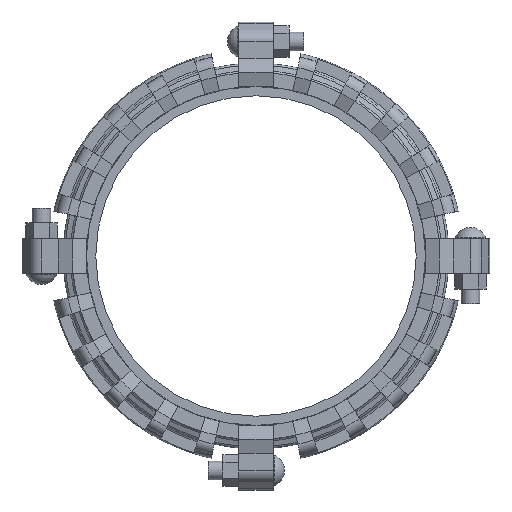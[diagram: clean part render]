
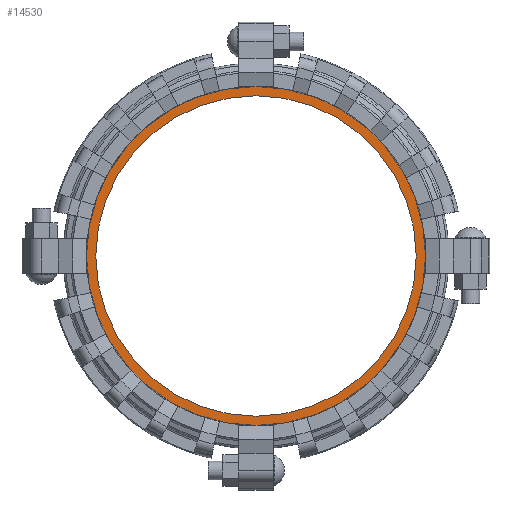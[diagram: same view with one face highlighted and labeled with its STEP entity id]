
A CAD part, top view. The second image highlights one B-rep face of the part: STEP entity #14530.
In plain terms, the highlighted planar face has unit normal (0, 0, 1).
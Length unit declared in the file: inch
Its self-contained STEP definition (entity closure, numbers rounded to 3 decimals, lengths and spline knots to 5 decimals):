
#640=FACE_BOUND('',#1459,.T.);
#670=FACE_OUTER_BOUND('',#1458,.T.);
#1458=EDGE_LOOP('',(#9069,#9070));
#1459=EDGE_LOOP('',(#9071));
#4042=CIRCLE('',#15348,9.825);
#4045=CIRCLE('',#15353,10.825);
#4046=CIRCLE('',#15354,10.825);
#5340=VERTEX_POINT('',#22538);
#5343=VERTEX_POINT('',#22547);
#5344=VERTEX_POINT('',#22548);
#6816=EDGE_CURVE('',#5340,#5340,#4042,.T.);
#6819=EDGE_CURVE('',#5343,#5344,#4045,.T.);
#6820=EDGE_CURVE('',#5344,#5343,#4046,.T.);
#9069=ORIENTED_EDGE('',*,*,#6819,.F.);
#9070=ORIENTED_EDGE('',*,*,#6820,.F.);
#9071=ORIENTED_EDGE('',*,*,#6816,.T.);
#13495=PLANE('',#15352);
#14530=ADVANCED_FACE('',(#670,#640),#13495,.T.);
#15348=AXIS2_PLACEMENT_3D('',#22540,#17469,#17470);
#15352=AXIS2_PLACEMENT_3D('',#22546,#17477,#17478);
#15353=AXIS2_PLACEMENT_3D('',#22549,#17479,#17480);
#15354=AXIS2_PLACEMENT_3D('',#22550,#17481,#17482);
#17469=DIRECTION('center_axis',(0.,0.,-1.));
#17470=DIRECTION('ref_axis',(0.,-1.,0.));
#17477=DIRECTION('center_axis',(0.,0.,1.));
#17478=DIRECTION('ref_axis',(1.,0.,0.));
#17479=DIRECTION('center_axis',(0.,0.,-1.));
#17480=DIRECTION('ref_axis',(0.,1.,0.));
#17481=DIRECTION('center_axis',(0.,0.,-1.));
#17482=DIRECTION('ref_axis',(0.,1.,0.));
#22538=CARTESIAN_POINT('',(0.,9.825,0.095));
#22540=CARTESIAN_POINT('Origin',(0.,0.,0.095));
#22546=CARTESIAN_POINT('Origin',(0.,0.,
0.095));
#22547=CARTESIAN_POINT('',(0.,10.825,0.095));
#22548=CARTESIAN_POINT('',(0.,-10.825,0.095));
#22549=CARTESIAN_POINT('Origin',(0.,0.,
0.095));
#22550=CARTESIAN_POINT('Origin',(0.,0.,
0.095));
